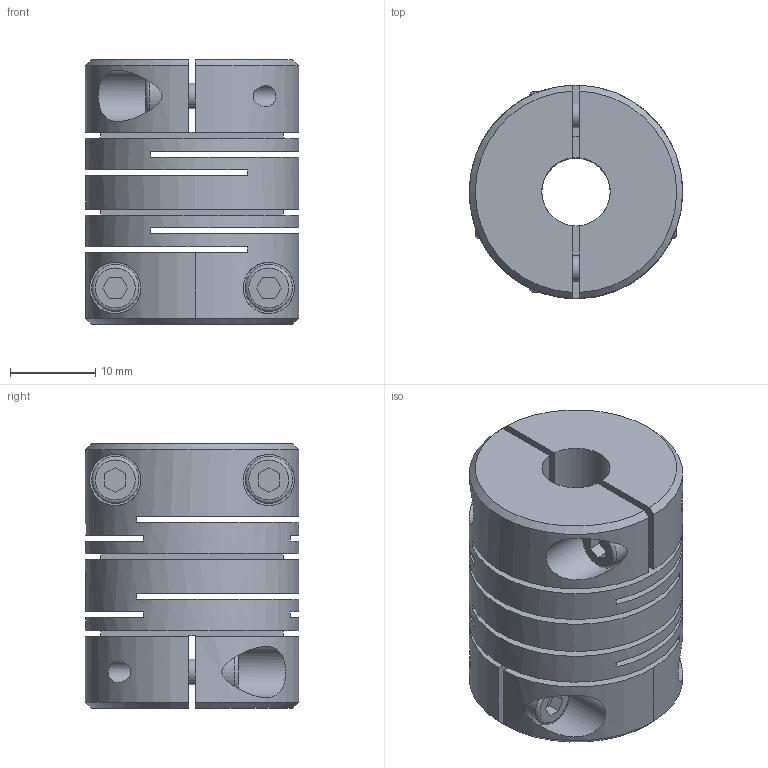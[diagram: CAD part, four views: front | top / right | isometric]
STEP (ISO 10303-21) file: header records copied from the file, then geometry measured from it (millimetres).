
FILE_DESCRIPTION (( 'STEP AP214' ), '1' );
FILE_NAME ('2246-25-B8-8-NI.step', '2022-05-27T09:31:00', ( '' ), ( '' ), 'SwSTEP 2.0', 'SolidWorks 2019', '' );
FILE_SCHEMA (( 'AUTOMOTIVE_DESIGN' ));
Length unit declared in the file: millimetre
Products named in the file (1): 2246-25-B8-8-NI
Bounding box: 25 x 24.99 x 31 mm (x, y, z)
Volume: 11391.9 mm3; surface area: 9450.5 mm2
Topology: 1 solids, 1 shells, 121 faces, 304 edges, 205 vertices
Faces by surface type: plane 78, cylinder 31, cone 8, torus 4
Full cylindrical faces by diameter (mm): 2.5 x4, 3 x4, 3.3 x4, 5.5 x4, 6 x4, 8 x5, 25 x1
Entity records: 4260 total; most frequent: CARTESIAN_POINT 969, DIRECTION 544, ORIENTED_EDGE 472, EDGE_CURVE 236, AXIS2_PLACEMENT_3D 203, EDGE_LOOP 196, VERTEX_POINT 176, FACE_OUTER_BOUND 150
